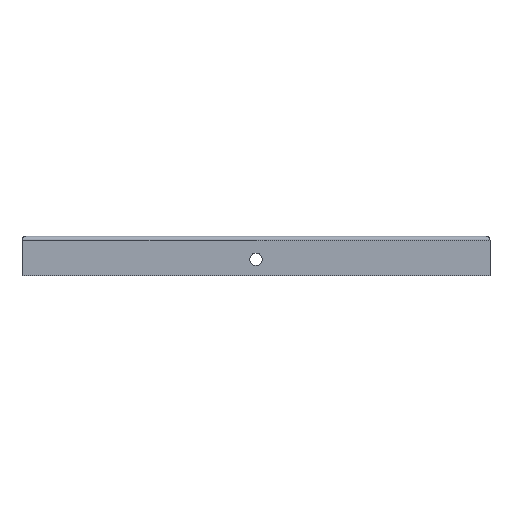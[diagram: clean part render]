
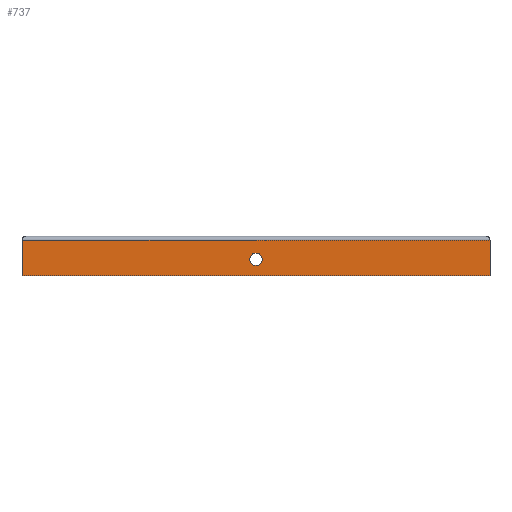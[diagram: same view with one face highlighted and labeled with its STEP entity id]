
A CAD part, front view. The second image highlights one B-rep face of the part: STEP entity #737.
In plain terms, the highlighted planar face has unit normal (0, -1, 0).
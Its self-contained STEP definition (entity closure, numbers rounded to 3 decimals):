
#107 = CARTESIAN_POINT ( 'NONE',  ( -56.7, -44.2, 52. ) ) ;
#159 = LINE ( 'NONE', #4272, #2625 ) ;
#180 = EDGE_LOOP ( 'NONE', ( #2081, #4093, #3088, #5418 ) ) ;
#323 = EDGE_CURVE ( 'NONE', #5826, #6709, #5481, .T. ) ;
#578 = CARTESIAN_POINT ( 'NONE',  ( 56.7, -44.2, 51.4 ) ) ;
#737 = ADVANCED_FACE ( 'NONE', ( #4190, #5211 ), #6494, .T. ) ;
#944 = LINE ( 'NONE', #5362, #1709 ) ;
#1155 = AXIS2_PLACEMENT_3D ( 'NONE', #6423, #6883, #3192 ) ;
#1293 = VECTOR ( 'NONE', #4342, 1000. ) ;
#1709 = VECTOR ( 'NONE', #3164, 1000. ) ;
#1736 = EDGE_CURVE ( 'NONE', #3979, #4832, #4443, .T. ) ;
#1744 = EDGE_CURVE ( 'NONE', #5826, #3296, #944, .T. ) ;
#2081 = ORIENTED_EDGE ( 'NONE', *, *, #5716, .T. ) ;
#2310 = CARTESIAN_POINT ( 'NONE',  ( 0., -44.2, 48.9 ) ) ;
#2358 = CARTESIAN_POINT ( 'NONE',  ( -56.7, -44.2, 51.4 ) ) ;
#2625 = VECTOR ( 'NONE', #7010, 1000. ) ;
#2958 = CARTESIAN_POINT ( 'NONE',  ( 0., -44.2, 47.4 ) ) ;
#3026 = CARTESIAN_POINT ( 'NONE',  ( 56.7, -44.2, 52. ) ) ;
#3088 = ORIENTED_EDGE ( 'NONE', *, *, #323, .T. ) ;
#3164 = DIRECTION ( 'NONE',  ( 1., 0., 0. ) ) ;
#3192 = DIRECTION ( 'NONE',  ( 0., 0., -1. ) ) ;
#3296 = VERTEX_POINT ( 'NONE', #3026 ) ;
#3299 = AXIS2_PLACEMENT_3D ( 'NONE', #7028, #3789, #4360 ) ;
#3454 = DIRECTION ( 'NONE',  ( 0., 0., -1. ) ) ;
#3466 = DIRECTION ( 'NONE',  ( 0., 0., -1. ) ) ;
#3500 = DIRECTION ( 'NONE',  ( 0., 1., 0. ) ) ;
#3648 = EDGE_CURVE ( 'NONE', #6709, #5576, #159, .T. ) ;
#3681 = CARTESIAN_POINT ( 'NONE',  ( -56.7, -44.2, 43.4 ) ) ;
#3789 = DIRECTION ( 'NONE',  ( 0., -1., 0. ) ) ;
#3979 = VERTEX_POINT ( 'NONE', #2310 ) ;
#4093 = ORIENTED_EDGE ( 'NONE', *, *, #1744, .F. ) ;
#4190 = FACE_BOUND ( 'NONE', #4511, .T. ) ;
#4272 = CARTESIAN_POINT ( 'NONE',  ( 56.7, -44.2, 43.4 ) ) ;
#4342 = DIRECTION ( 'NONE',  ( 0., 0., 1. ) ) ;
#4349 = EDGE_CURVE ( 'NONE', #4832, #3979, #6284, .T. ) ;
#4360 = DIRECTION ( 'NONE',  ( 0., 0., -1. ) ) ;
#4443 = CIRCLE ( 'NONE', #1155, 1.5 ) ;
#4511 = EDGE_LOOP ( 'NONE', ( #6614, #5838 ) ) ;
#4832 = VERTEX_POINT ( 'NONE', #5719 ) ;
#5211 = FACE_OUTER_BOUND ( 'NONE', #180, .T. ) ;
#5302 = VECTOR ( 'NONE', #3466, 1000. ) ;
#5362 = CARTESIAN_POINT ( 'NONE',  ( 0., -44.2, 52. ) ) ;
#5418 = ORIENTED_EDGE ( 'NONE', *, *, #3648, .T. ) ;
#5481 = LINE ( 'NONE', #2358, #5302 ) ;
#5576 = VERTEX_POINT ( 'NONE', #5895 ) ;
#5716 = EDGE_CURVE ( 'NONE', #5576, #3296, #6144, .T. ) ;
#5719 = CARTESIAN_POINT ( 'NONE',  ( 0., -44.2, 45.9 ) ) ;
#5826 = VERTEX_POINT ( 'NONE', #107 ) ;
#5838 = ORIENTED_EDGE ( 'NONE', *, *, #1736, .T. ) ;
#5895 = CARTESIAN_POINT ( 'NONE',  ( 56.7, -44.2, 43.4 ) ) ;
#6144 = LINE ( 'NONE', #578, #1293 ) ;
#6284 = CIRCLE ( 'NONE', #6919, 1.5 ) ;
#6423 = CARTESIAN_POINT ( 'NONE',  ( 0., -44.2, 47.4 ) ) ;
#6494 = PLANE ( 'NONE',  #3299 ) ;
#6614 = ORIENTED_EDGE ( 'NONE', *, *, #4349, .T. ) ;
#6709 = VERTEX_POINT ( 'NONE', #3681 ) ;
#6883 = DIRECTION ( 'NONE',  ( 0., 1., 0. ) ) ;
#6919 = AXIS2_PLACEMENT_3D ( 'NONE', #2958, #3500, #3454 ) ;
#7010 = DIRECTION ( 'NONE',  ( 1., 0., 0. ) ) ;
#7028 = CARTESIAN_POINT ( 'NONE',  ( 56.7, -44.2, 51.4 ) ) ;
